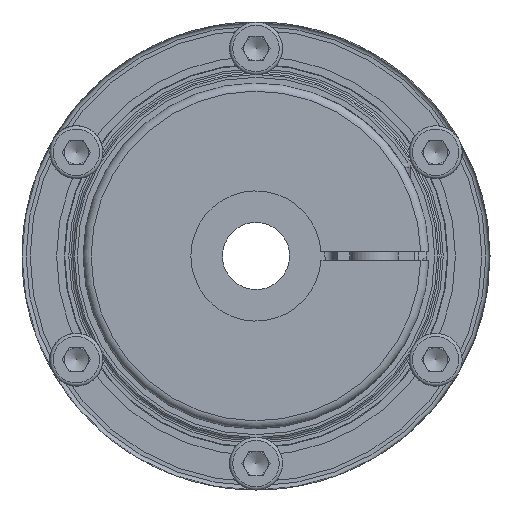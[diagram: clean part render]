
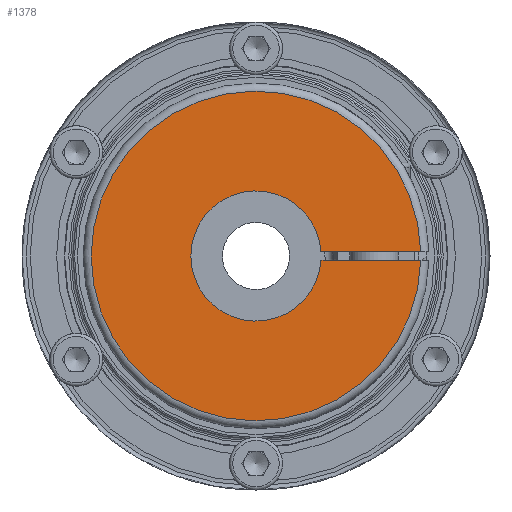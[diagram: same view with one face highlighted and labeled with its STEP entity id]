
A CAD part, left-side view. The second image highlights one B-rep face of the part: STEP entity #1378.
In plain terms, the highlighted planar face has unit normal (-1, 0, 0).
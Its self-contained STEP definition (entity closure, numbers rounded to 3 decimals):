
#1378 = ADVANCED_FACE( '', ( #2976 ), #2977, .T. );
#2976 = FACE_OUTER_BOUND( '', #4723, .T. );
#2977 = PLANE( '', #4724 );
#4723 = EDGE_LOOP( '', ( #8655, #8656, #8657, #8658 ) );
#4724 = AXIS2_PLACEMENT_3D( '', #8659, #8660, #8661 );
#8655 = ORIENTED_EDGE( '', *, *, #10160, .T. );
#8656 = ORIENTED_EDGE( '', *, *, #9161, .F. );
#8657 = ORIENTED_EDGE( '', *, *, #9639, .T. );
#8658 = ORIENTED_EDGE( '', *, *, #10103, .T. );
#8659 = CARTESIAN_POINT( '', ( -73.5, 0., 9. ) );
#8660 = DIRECTION( '', ( -1., 0., 0. ) );
#8661 = DIRECTION( '', ( 0., 0., 1. ) );
#9161 = EDGE_CURVE( '', #10830, #10833, #10834, .T. );
#9639 = EDGE_CURVE( '', #10830, #11646, #11648, .T. );
#10103 = EDGE_CURVE( '', #11646, #12361, #12363, .T. );
#10160 = EDGE_CURVE( '', #12361, #10833, #12442, .T. );
#10830 = VERTEX_POINT( '', #13307 );
#10833 = VERTEX_POINT( '', #13311 );
#10834 = CIRCLE( '', #13312, 16. );
#11646 = VERTEX_POINT( '', #15011 );
#11648 = LINE( '', #15026, #15027 );
#12361 = VERTEX_POINT( '', #16752 );
#12363 = CIRCLE( '', #16767, 40.5 );
#12442 = LINE( '', #16901, #16902 );
#13307 = CARTESIAN_POINT( '', ( -73.5, -15.969, 1. ) );
#13311 = CARTESIAN_POINT( '', ( -73.5, -15.969, -1. ) );
#13312 = AXIS2_PLACEMENT_3D( '', #18582, #18583, #18584 );
#15011 = CARTESIAN_POINT( '', ( -73.5, -40.488, 1. ) );
#15026 = CARTESIAN_POINT( '', ( -73.5, -8.944, 1. ) );
#15027 = VECTOR( '', #19228, 1000. );
#16752 = CARTESIAN_POINT( '', ( -73.5, -40.488, -1. ) );
#16767 = AXIS2_PLACEMENT_3D( '', #19823, #19824, #19825 );
#16901 = CARTESIAN_POINT( '', ( -73.5, -42.488, -1. ) );
#16902 = VECTOR( '', #19890, 1000. );
#18582 = CARTESIAN_POINT( '', ( -73.5, 0., 0. ) );
#18583 = DIRECTION( '', ( -1., 0., 0. ) );
#18584 = DIRECTION( '', ( 0., -1., 0. ) );
#19228 = DIRECTION( '', ( 0., -1., 0. ) );
#19823 = CARTESIAN_POINT( '', ( -73.5, 0., 0. ) );
#19824 = DIRECTION( '', ( -1., 0., 0. ) );
#19825 = DIRECTION( '', ( 0., 0., 1. ) );
#19890 = DIRECTION( '', ( 0., 1., 0. ) );
